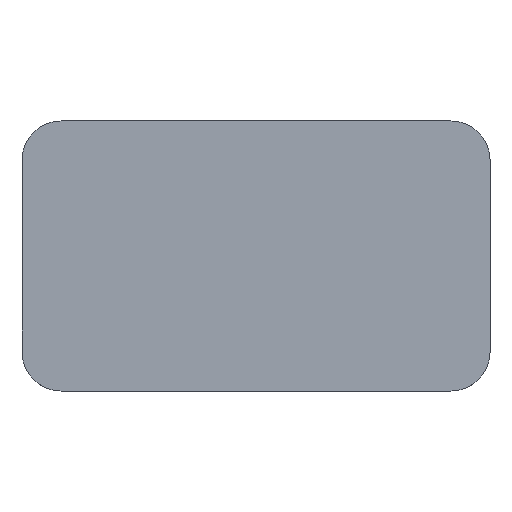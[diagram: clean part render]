
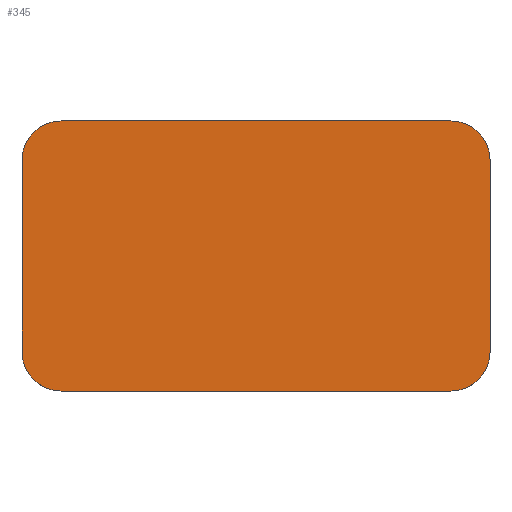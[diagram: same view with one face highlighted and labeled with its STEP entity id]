
A CAD part, top view. The second image highlights one B-rep face of the part: STEP entity #345.
In plain terms, the highlighted planar face has unit normal (0, 0, 1).
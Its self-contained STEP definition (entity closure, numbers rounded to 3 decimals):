
#11 = CARTESIAN_POINT ( 'NONE',  ( 34.727, 19.491, 1.6 ) ) ;
#13 = ORIENTED_EDGE ( 'NONE', *, *, #371, .T. ) ;
#18 = DIRECTION ( 'NONE',  ( 0., 0., 1. ) ) ;
#19 = ORIENTED_EDGE ( 'NONE', *, *, #353, .T. ) ;
#21 = DIRECTION ( 'NONE',  ( 1., 0., 0. ) ) ;
#23 = VECTOR ( 'NONE', #169, 1000. ) ;
#29 = VECTOR ( 'NONE', #232, 1000. ) ;
#36 = VERTEX_POINT ( 'NONE', #83 ) ;
#37 = ORIENTED_EDGE ( 'NONE', *, *, #303, .T. ) ;
#43 = CARTESIAN_POINT ( 'NONE',  ( -25.273, 19.491, 1.6 ) ) ;
#45 = VECTOR ( 'NONE', #227, 1000. ) ;
#49 = CARTESIAN_POINT ( 'NONE',  ( 29.727, 24.491, 1.6 ) ) ;
#51 = DIRECTION ( 'NONE',  ( 1., 0., 0. ) ) ;
#52 = CARTESIAN_POINT ( 'NONE',  ( -25.273, 19.491, 1.6 ) ) ;
#55 = AXIS2_PLACEMENT_3D ( 'NONE', #369, #282, #51 ) ;
#67 = EDGE_CURVE ( 'NONE', #113, #333, #228, .T. ) ;
#74 = AXIS2_PLACEMENT_3D ( 'NONE', #336, #79, #84 ) ;
#76 = VERTEX_POINT ( 'NONE', #43 ) ;
#79 = DIRECTION ( 'NONE',  ( 0., 0., 1. ) ) ;
#83 = CARTESIAN_POINT ( 'NONE',  ( 29.727, -10.128, 1.6 ) ) ;
#84 = DIRECTION ( 'NONE',  ( 1., 0., 0. ) ) ;
#85 = ORIENTED_EDGE ( 'NONE', *, *, #279, .T. ) ;
#93 = VECTOR ( 'NONE', #306, 1000. ) ;
#106 = EDGE_CURVE ( 'NONE', #36, #188, #208, .T. ) ;
#109 = AXIS2_PLACEMENT_3D ( 'NONE', #149, #179, #148 ) ;
#113 = VERTEX_POINT ( 'NONE', #262 ) ;
#114 = CARTESIAN_POINT ( 'NONE',  ( -20.273, -10.128, 1.6 ) ) ;
#123 = EDGE_CURVE ( 'NONE', #188, #268, #235, .T. ) ;
#126 = AXIS2_PLACEMENT_3D ( 'NONE', #358, #265, #243 ) ;
#136 = VERTEX_POINT ( 'NONE', #323 ) ;
#148 = DIRECTION ( 'NONE',  ( 1., 0., 0. ) ) ;
#149 = CARTESIAN_POINT ( 'NONE',  ( 29.727, -5.128, 1.6 ) ) ;
#156 = CIRCLE ( 'NONE', #126, 5. ) ;
#165 = FACE_OUTER_BOUND ( 'NONE', #338, .T. ) ;
#169 = DIRECTION ( 'NONE',  ( -1., 0., 0. ) ) ;
#174 = CARTESIAN_POINT ( 'NONE',  ( 34.727, -5.128, 1.6 ) ) ;
#179 = DIRECTION ( 'NONE',  ( 0., 0., 1. ) ) ;
#186 = VERTEX_POINT ( 'NONE', #236 ) ;
#188 = VERTEX_POINT ( 'NONE', #174 ) ;
#190 = AXIS2_PLACEMENT_3D ( 'NONE', #344, #18, #21 ) ;
#191 = ORIENTED_EDGE ( 'NONE', *, *, #123, .T. ) ;
#208 = CIRCLE ( 'NONE', #109, 5. ) ;
#222 = LINE ( 'NONE', #114, #45 ) ;
#227 = DIRECTION ( 'NONE',  ( 1., 0., 0. ) ) ;
#228 = CIRCLE ( 'NONE', #55, 5. ) ;
#232 = DIRECTION ( 'NONE',  ( 0., 1., 0. ) ) ;
#235 = LINE ( 'NONE', #351, #29 ) ;
#236 = CARTESIAN_POINT ( 'NONE',  ( -20.273, 24.491, 1.6 ) ) ;
#239 = CIRCLE ( 'NONE', #74, 5. ) ;
#243 = DIRECTION ( 'NONE',  ( 1., 0., 0. ) ) ;
#249 = EDGE_CURVE ( 'NONE', #268, #136, #156, .T. ) ;
#262 = CARTESIAN_POINT ( 'NONE',  ( -25.273, -5.128, 1.6 ) ) ;
#265 = DIRECTION ( 'NONE',  ( 0., 0., 1. ) ) ;
#268 = VERTEX_POINT ( 'NONE', #11 ) ;
#272 = ORIENTED_EDGE ( 'NONE', *, *, #249, .T. ) ;
#279 = EDGE_CURVE ( 'NONE', #76, #113, #298, .T. ) ;
#282 = DIRECTION ( 'NONE',  ( 0., 0., 1. ) ) ;
#298 = LINE ( 'NONE', #52, #93 ) ;
#303 = EDGE_CURVE ( 'NONE', #333, #36, #222, .T. ) ;
#306 = DIRECTION ( 'NONE',  ( 0., -1., 0. ) ) ;
#309 = PLANE ( 'NONE',  #190 ) ;
#314 = LINE ( 'NONE', #49, #23 ) ;
#323 = CARTESIAN_POINT ( 'NONE',  ( 29.727, 24.491, 1.6 ) ) ;
#333 = VERTEX_POINT ( 'NONE', #334 ) ;
#334 = CARTESIAN_POINT ( 'NONE',  ( -20.273, -10.128, 1.6 ) ) ;
#336 = CARTESIAN_POINT ( 'NONE',  ( -20.273, 19.491, 1.6 ) ) ;
#338 = EDGE_LOOP ( 'NONE', ( #359, #37, #361, #191, #272, #19, #13, #85 ) ) ;
#344 = CARTESIAN_POINT ( 'NONE',  ( -20.273, -5.128, 1.6 ) ) ;
#345 = ADVANCED_FACE ( 'NONE', ( #165 ), #309, .T. ) ;
#351 = CARTESIAN_POINT ( 'NONE',  ( 34.727, -5.128, 1.6 ) ) ;
#353 = EDGE_CURVE ( 'NONE', #136, #186, #314, .T. ) ;
#358 = CARTESIAN_POINT ( 'NONE',  ( 29.727, 19.491, 1.6 ) ) ;
#359 = ORIENTED_EDGE ( 'NONE', *, *, #67, .T. ) ;
#361 = ORIENTED_EDGE ( 'NONE', *, *, #106, .T. ) ;
#369 = CARTESIAN_POINT ( 'NONE',  ( -20.273, -5.128, 1.6 ) ) ;
#371 = EDGE_CURVE ( 'NONE', #186, #76, #239, .T. ) ;
